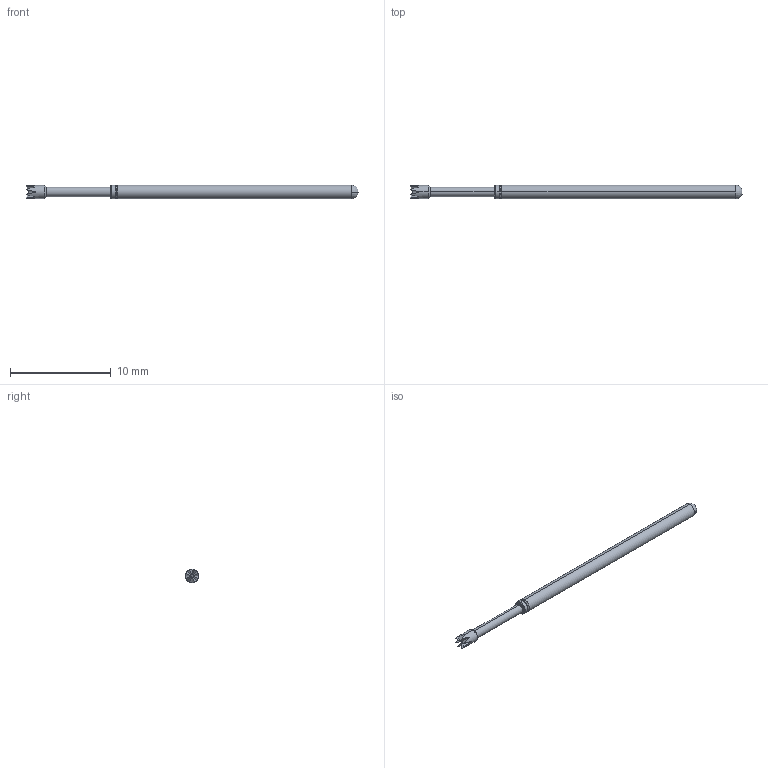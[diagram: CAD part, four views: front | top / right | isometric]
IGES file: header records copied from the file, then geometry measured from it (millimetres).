
Start section: SolidWorks IGES file using analytic representation for surfaces
Global section: file name: Z:\probe solid model mockups\Solidworks models\POGO-25 IGS files\POGO-25Z1.IGS; native system: SolidWorks 2006 by SolidWorks Corporation; preprocessor: SolidWorks 2006 by SolidWorks Corporation; author: tsakatani; date: 071214.093953; units: inch
Bounding box: 33.02 x 1.37 x 1.37 mm (x, y, z)
Surface area: 137 mm2 (no closed solid volume)
Topology: 0 solids, 0 shells, 38 faces, 210 edges, 210 vertices
Faces by surface type: bspline 22, revolution 16
